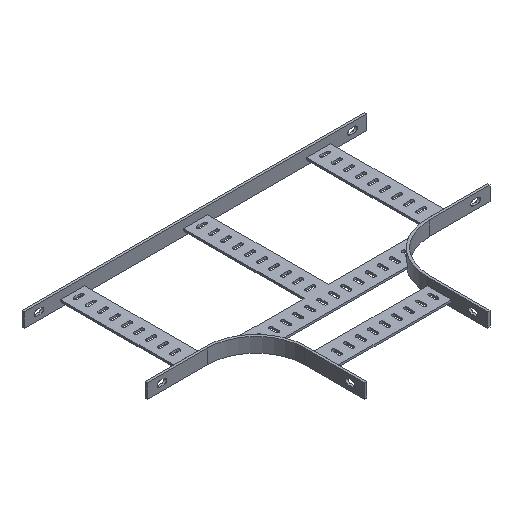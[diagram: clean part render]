
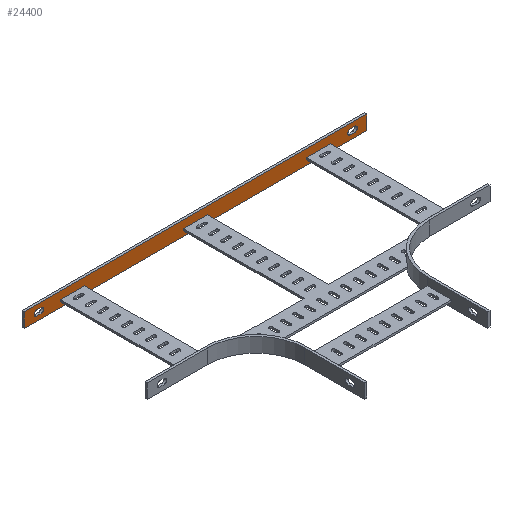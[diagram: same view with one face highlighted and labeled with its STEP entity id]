
A CAD part, isometric view. The second image highlights one B-rep face of the part: STEP entity #24400.
In plain terms, the highlighted planar face has unit normal (0, -1, 0).
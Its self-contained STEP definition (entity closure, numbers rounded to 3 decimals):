
#22140=CARTESIAN_POINT('',(-460.,355.,-10.));
#22150=VERTEX_POINT('',#22140);
#22180=CARTESIAN_POINT('',(-460.,355.,0.));
#22190=DIRECTION('',(0.,0.,-1.));
#22200=VECTOR('',#22190,1.);
#22210=LINE('',#22180,#22200);
#22220=CARTESIAN_POINT('',(-460.,355.,-14.));
#22230=VERTEX_POINT('',#22220);
#22240=EDGE_CURVE('',#22150,#22230,#22210,.T.);
#22360=CARTESIAN_POINT('',(-435.,355.,-30.));
#22370=DIRECTION('',(0.,1.,-0.));
#22380=DIRECTION('',(-1.,0.,0.));
#22390=AXIS2_PLACEMENT_3D('',#22360,#22370,#22380);
#22400=PLANE('',#22390);
#22410=CARTESIAN_POINT('',(90.5,355.,-15.));
#22420=DIRECTION('',(0.,-1.,0.));
#22430=DIRECTION('',(1.,0.,0.));
#22440=AXIS2_PLACEMENT_3D('',#22410,#22420,#22430);
#22450=CIRCLE('',#22440,5.5);
#22460=CARTESIAN_POINT('',(90.5,355.,-9.5));
#22470=VERTEX_POINT('',#22460);
#22480=CARTESIAN_POINT('',(90.5,355.,-20.5));
#22490=VERTEX_POINT('',#22480);
#22500=EDGE_CURVE('',#22470,#22490,#22450,.T.);
#22510=ORIENTED_EDGE('',*,*,#22500,.F.);
#22520=CARTESIAN_POINT('',(0.,355.,-20.5));
#22530=DIRECTION('',(-1.,0.,0.));
#22540=VECTOR('',#22530,1.);
#22550=LINE('',#22520,#22540);
#22560=CARTESIAN_POINT('',(99.5,355.,-20.5));
#22570=VERTEX_POINT('',#22560);
#22580=EDGE_CURVE('',#22570,#22490,#22550,.T.);
#22590=ORIENTED_EDGE('',*,*,#22580,.T.);
#22600=CARTESIAN_POINT('',(99.5,355.,-15.));
#22610=DIRECTION('',(0.,1.,0.));
#22620=DIRECTION('',(1.,0.,0.));
#22630=AXIS2_PLACEMENT_3D('',#22600,#22610,#22620);
#22640=CIRCLE('',#22630,5.5);
#22650=CARTESIAN_POINT('',(99.5,355.,-9.5));
#22660=VERTEX_POINT('',#22650);
#22670=EDGE_CURVE('',#22660,#22570,#22640,.T.);
#22680=ORIENTED_EDGE('',*,*,#22670,.T.);
#22690=CARTESIAN_POINT('',(0.,355.,-9.5));
#22700=DIRECTION('',(1.,0.,0.));
#22710=VECTOR('',#22700,1.);
#22720=LINE('',#22690,#22710);
#22730=EDGE_CURVE('',#22470,#22660,#22720,.T.);
#22740=ORIENTED_EDGE('',*,*,#22730,.T.);
#22750=EDGE_LOOP('',(#22740,#22680,#22590,#22510));
#22760=FACE_BOUND('',#22750,.T.);
#22770=CARTESIAN_POINT('',(-150.,355.,-9.5));
#22780=DIRECTION('',(1.,0.,0.));
#22790=VECTOR('',#22780,1.);
#22800=LINE('',#22770,#22790);
#22810=CARTESIAN_POINT('',(-559.5,355.,-9.5));
#22820=VERTEX_POINT('',#22810);
#22830=CARTESIAN_POINT('',(-550.5,355.,-9.5));
#22840=VERTEX_POINT('',#22830);
#22850=EDGE_CURVE('',#22820,#22840,#22800,.T.);
#22860=ORIENTED_EDGE('',*,*,#22850,.T.);
#22870=CARTESIAN_POINT('',(-559.5,355.,-15.));
#22880=DIRECTION('',(0.,1.,0.));
#22890=DIRECTION('',(-1.,0.,0.));
#22900=AXIS2_PLACEMENT_3D('',#22870,#22880,#22890);
#22910=CIRCLE('',#22900,5.5);
#22920=CARTESIAN_POINT('',(-559.5,355.,-20.5));
#22930=VERTEX_POINT('',#22920);
#22940=EDGE_CURVE('',#22930,#22820,#22910,.T.);
#22950=ORIENTED_EDGE('',*,*,#22940,.T.);
#22960=CARTESIAN_POINT('',(-150.,355.,-20.5));
#22970=DIRECTION('',(-1.,0.,0.));
#22980=VECTOR('',#22970,1.);
#22990=LINE('',#22960,#22980);
#23000=CARTESIAN_POINT('',(-550.5,355.,-20.5));
#23010=VERTEX_POINT('',#23000);
#23020=EDGE_CURVE('',#23010,#22930,#22990,.T.);
#23030=ORIENTED_EDGE('',*,*,#23020,.T.);
#23040=CARTESIAN_POINT('',(-550.5,355.,-15.));
#23050=DIRECTION('',(0.,-1.,0.));
#23060=DIRECTION('',(-1.,0.,0.));
#23070=AXIS2_PLACEMENT_3D('',#23040,#23050,#23060);
#23080=CIRCLE('',#23070,5.5);
#23090=EDGE_CURVE('',#23010,#22840,#23080,.T.);
#23100=ORIENTED_EDGE('',*,*,#23090,.F.);
#23110=EDGE_LOOP('',(#23100,#23030,#22950,#22860));
#23120=FACE_BOUND('',#23110,.T.);
#23130=CARTESIAN_POINT('',(-435.,355.,-30.));
#23140=DIRECTION('',(1.,0.,0.));
#23150=VECTOR('',#23140,1.);
#23160=LINE('',#23130,#23150);
#23170=CARTESIAN_POINT('',(-585.,355.,-30.));
#23180=VERTEX_POINT('',#23170);
#23190=CARTESIAN_POINT('',(125.,355.,-30.));
#23200=VERTEX_POINT('',#23190);
#23210=EDGE_CURVE('',#23180,#23200,#23160,.T.);
#23220=ORIENTED_EDGE('',*,*,#23210,.T.);
#23230=CARTESIAN_POINT('',(-585.,355.,-30.));
#23240=DIRECTION('',(0.,0.,1.));
#23250=VECTOR('',#23240,1.);
#23260=LINE('',#23230,#23250);
#23270=CARTESIAN_POINT('',(-585.,355.,0.));
#23280=VERTEX_POINT('',#23270);
#23290=EDGE_CURVE('',#23180,#23280,#23260,.T.);
#23300=ORIENTED_EDGE('',*,*,#23290,.F.);
#23310=CARTESIAN_POINT('',(-435.,355.,0.));
#23320=DIRECTION('',(1.,0.,0.));
#23330=VECTOR('',#23320,1.);
#23340=LINE('',#23310,#23330);
#23350=CARTESIAN_POINT('',(125.,355.,0.));
#23360=VERTEX_POINT('',#23350);
#23370=EDGE_CURVE('',#23280,#23360,#23340,.T.);
#23380=ORIENTED_EDGE('',*,*,#23370,.F.);
#23390=CARTESIAN_POINT('',(125.,355.,-30.));
#23400=DIRECTION('',(0.,0.,1.));
#23410=VECTOR('',#23400,1.);
#23420=LINE('',#23390,#23410);
#23430=EDGE_CURVE('',#23200,#23360,#23420,.T.);
#23440=ORIENTED_EDGE('',*,*,#23430,.T.);
#23450=EDGE_LOOP('',(#23440,#23380,#23300,#23220));
#23460=FACE_OUTER_BOUND('',#23450,.T.);
#23470=CARTESIAN_POINT('',(-205.,355.,0.));
#23480=DIRECTION('',(0.,0.,-1.));
#23490=VECTOR('',#23480,1.);
#23500=LINE('',#23470,#23490);
#23510=CARTESIAN_POINT('',(-205.,355.,-10.));
#23520=VERTEX_POINT('',#23510);
#23530=CARTESIAN_POINT('',(-205.,355.,-14.));
#23540=VERTEX_POINT('',#23530);
#23550=EDGE_CURVE('',#23520,#23540,#23500,.T.);
#23560=ORIENTED_EDGE('',*,*,#23550,.T.);
#23570=CARTESIAN_POINT('',(0.,355.,-10.));
#23580=DIRECTION('',(1.,0.,0.));
#23590=VECTOR('',#23580,1.);
#23600=LINE('',#23570,#23590);
#23610=CARTESIAN_POINT('',(-255.,355.,-10.));
#23620=VERTEX_POINT('',#23610);
#23630=EDGE_CURVE('',#23620,#23520,#23600,.T.);
#23640=ORIENTED_EDGE('',*,*,#23630,.T.);
#23650=CARTESIAN_POINT('',(-255.,355.,0.));
#23660=DIRECTION('',(0.,0.,1.));
#23670=VECTOR('',#23660,1.);
#23680=LINE('',#23650,#23670);
#23690=CARTESIAN_POINT('',(-255.,355.,-14.));
#23700=VERTEX_POINT('',#23690);
#23710=EDGE_CURVE('',#23700,#23620,#23680,.T.);
#23720=ORIENTED_EDGE('',*,*,#23710,.T.);
#23730=CARTESIAN_POINT('',(0.,355.,-14.));
#23740=DIRECTION('',(-1.,0.,0.));
#23750=VECTOR('',#23740,1.);
#23760=LINE('',#23730,#23750);
#23770=EDGE_CURVE('',#23540,#23700,#23760,.T.);
#23780=ORIENTED_EDGE('',*,*,#23770,.T.);
#23790=EDGE_LOOP('',(#23780,#23720,#23640,#23560));
#23800=FACE_BOUND('',#23790,.T.);
#23810=CARTESIAN_POINT('',(-510.,355.,0.));
#23820=DIRECTION('',(0.,0.,1.));
#23830=VECTOR('',#23820,1.);
#23840=LINE('',#23810,#23830);
#23850=CARTESIAN_POINT('',(-510.,355.,-14.));
#23860=VERTEX_POINT('',#23850);
#23870=CARTESIAN_POINT('',(-510.,355.,-10.));
#23880=VERTEX_POINT('',#23870);
#23890=EDGE_CURVE('',#23860,#23880,#23840,.T.);
#23900=ORIENTED_EDGE('',*,*,#23890,.T.);
#23910=CARTESIAN_POINT('',(0.,355.,-14.));
#23920=DIRECTION('',(-1.,0.,0.));
#23930=VECTOR('',#23920,1.);
#23940=LINE('',#23910,#23930);
#23950=EDGE_CURVE('',#22230,#23860,#23940,.T.);
#23960=ORIENTED_EDGE('',*,*,#23950,.T.);
#23970=ORIENTED_EDGE('',*,*,#22240,.T.);
#23980=CARTESIAN_POINT('',(0.,355.,-10.));
#23990=DIRECTION('',(1.,0.,0.));
#24000=VECTOR('',#23990,1.);
#24010=LINE('',#23980,#24000);
#24020=EDGE_CURVE('',#23880,#22150,#24010,.T.);
#24030=ORIENTED_EDGE('',*,*,#24020,.T.);
#24040=EDGE_LOOP('',(#24030,#23970,#23960,#23900));
#24050=FACE_BOUND('',#24040,.T.);
#24060=CARTESIAN_POINT('',(50.,355.,0.));
#24070=DIRECTION('',(0.,0.,-1.));
#24080=VECTOR('',#24070,1.);
#24090=LINE('',#24060,#24080);
#24100=CARTESIAN_POINT('',(50.,355.,-10.));
#24110=VERTEX_POINT('',#24100);
#24120=CARTESIAN_POINT('',(50.,355.,-14.));
#24130=VERTEX_POINT('',#24120);
#24140=EDGE_CURVE('',#24110,#24130,#24090,.T.);
#24150=ORIENTED_EDGE('',*,*,#24140,.T.);
#24160=CARTESIAN_POINT('',(0.,355.,-10.));
#24170=DIRECTION('',(1.,0.,0.));
#24180=VECTOR('',#24170,1.);
#24190=LINE('',#24160,#24180);
#24200=CARTESIAN_POINT('',(0.,355.,-10.));
#24210=VERTEX_POINT('',#24200);
#24220=EDGE_CURVE('',#24210,#24110,#24190,.T.);
#24230=ORIENTED_EDGE('',*,*,#24220,.T.);
#24240=CARTESIAN_POINT('',(0.,355.,0.));
#24250=DIRECTION('',(0.,0.,1.));
#24260=VECTOR('',#24250,1.);
#24270=LINE('',#24240,#24260);
#24280=CARTESIAN_POINT('',(0.,355.,-14.));
#24290=VERTEX_POINT('',#24280);
#24300=EDGE_CURVE('',#24290,#24210,#24270,.T.);
#24310=ORIENTED_EDGE('',*,*,#24300,.T.);
#24320=CARTESIAN_POINT('',(0.,355.,-14.));
#24330=DIRECTION('',(-1.,0.,0.));
#24340=VECTOR('',#24330,1.);
#24350=LINE('',#24320,#24340);
#24360=EDGE_CURVE('',#24130,#24290,#24350,.T.);
#24370=ORIENTED_EDGE('',*,*,#24360,.T.);
#24380=EDGE_LOOP('',(#24370,#24310,#24230,#24150));
#24390=FACE_BOUND('',#24380,.T.);
#24400=ADVANCED_FACE('',(#22760,#23120,#23460,#23800,#24050,#24390),
#22400,.F.);
